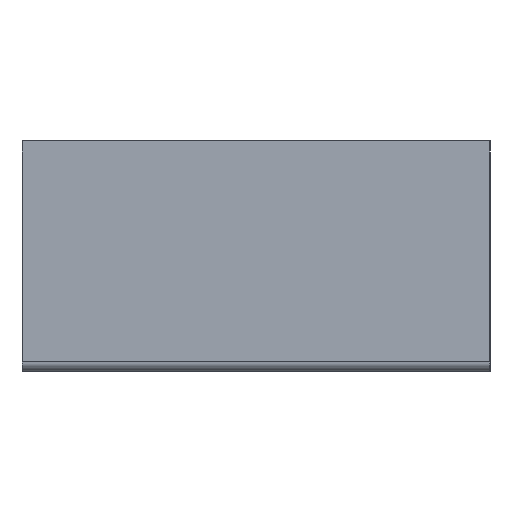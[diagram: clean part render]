
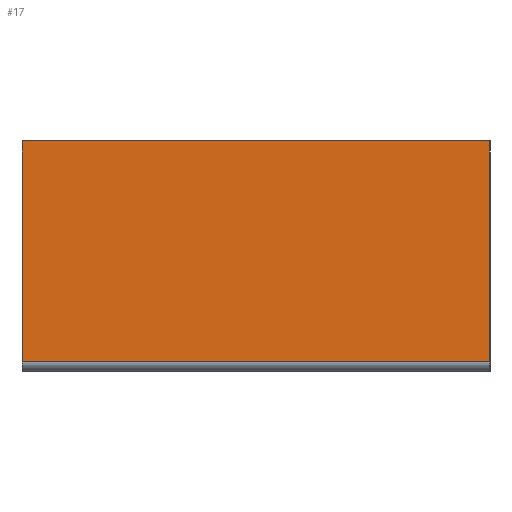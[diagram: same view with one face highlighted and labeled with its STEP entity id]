
A CAD part, left-side view. The second image highlights one B-rep face of the part: STEP entity #17.
In plain terms, the highlighted planar face has unit normal (-1, 0, 0).
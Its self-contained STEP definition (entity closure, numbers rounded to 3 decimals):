
#17 = ADVANCED_FACE('',(#18),#32,.F.);
#18 = FACE_BOUND('',#19,.F.);
#19 = EDGE_LOOP('',(#20,#55,#83,#111));
#20 = ORIENTED_EDGE('',*,*,#21,.T.);
#21 = EDGE_CURVE('',#22,#24,#26,.T.);
#22 = VERTEX_POINT('',#23);
#23 = CARTESIAN_POINT('',(-110.,90.,88.5));
#24 = VERTEX_POINT('',#25);
#25 = CARTESIAN_POINT('',(-110.,-90.,88.5));
#26 = SURFACE_CURVE('',#27,(#31,#43),.PCURVE_S1.);
#27 = LINE('',#28,#29);
#28 = CARTESIAN_POINT('',(-110.,90.,88.5));
#29 = VECTOR('',#30,1.);
#30 = DIRECTION('',(0.,-1.,0.));
#31 = PCURVE('',#32,#37);
#32 = PLANE('',#33);
#33 = AXIS2_PLACEMENT_3D('',#34,#35,#36);
#34 = CARTESIAN_POINT('',(-110.,90.,88.5));
#35 = DIRECTION('',(1.,0.,0.));
#36 = DIRECTION('',(0.,0.,-1.));
#37 = DEFINITIONAL_REPRESENTATION('',(#38),#42);
#38 = LINE('',#39,#40);
#39 = CARTESIAN_POINT('',(0.,0.));
#40 = VECTOR('',#41,1.);
#41 = DIRECTION('',(0.,-1.));
#42 = ( GEOMETRIC_REPRESENTATION_CONTEXT(2) 
PARAMETRIC_REPRESENTATION_CONTEXT() REPRESENTATION_CONTEXT('2D SPACE',''
  ) );
#43 = PCURVE('',#44,#49);
#44 = PLANE('',#45);
#45 = AXIS2_PLACEMENT_3D('',#46,#47,#48);
#46 = CARTESIAN_POINT('',(-108.5,90.,88.5));
#47 = DIRECTION('',(-0.,-0.,-1.));
#48 = DIRECTION('',(-1.,0.,0.));
#49 = DEFINITIONAL_REPRESENTATION('',(#50),#54);
#50 = LINE('',#51,#52);
#51 = CARTESIAN_POINT('',(1.5,0.));
#52 = VECTOR('',#53,1.);
#53 = DIRECTION('',(0.,-1.));
#54 = ( GEOMETRIC_REPRESENTATION_CONTEXT(2) 
PARAMETRIC_REPRESENTATION_CONTEXT() REPRESENTATION_CONTEXT('2D SPACE',''
  ) );
#55 = ORIENTED_EDGE('',*,*,#56,.T.);
#56 = EDGE_CURVE('',#24,#57,#59,.T.);
#57 = VERTEX_POINT('',#58);
#58 = CARTESIAN_POINT('',(-110.,-90.,3.5));
#59 = SURFACE_CURVE('',#60,(#64,#71),.PCURVE_S1.);
#60 = LINE('',#61,#62);
#61 = CARTESIAN_POINT('',(-110.,-90.,88.5));
#62 = VECTOR('',#63,1.);
#63 = DIRECTION('',(0.,0.,-1.));
#64 = PCURVE('',#32,#65);
#65 = DEFINITIONAL_REPRESENTATION('',(#66),#70);
#66 = LINE('',#67,#68);
#67 = CARTESIAN_POINT('',(0.,-180.));
#68 = VECTOR('',#69,1.);
#69 = DIRECTION('',(1.,0.));
#70 = ( GEOMETRIC_REPRESENTATION_CONTEXT(2) 
PARAMETRIC_REPRESENTATION_CONTEXT() REPRESENTATION_CONTEXT('2D SPACE',''
  ) );
#71 = PCURVE('',#72,#77);
#72 = PLANE('',#73);
#73 = AXIS2_PLACEMENT_3D('',#74,#75,#76);
#74 = CARTESIAN_POINT('',(0.,-90.,20.676));
#75 = DIRECTION('',(-0.,-1.,-0.));
#76 = DIRECTION('',(0.,0.,-1.));
#77 = DEFINITIONAL_REPRESENTATION('',(#78),#82);
#78 = LINE('',#79,#80);
#79 = CARTESIAN_POINT('',(-67.824,-110.));
#80 = VECTOR('',#81,1.);
#81 = DIRECTION('',(1.,0.));
#82 = ( GEOMETRIC_REPRESENTATION_CONTEXT(2) 
PARAMETRIC_REPRESENTATION_CONTEXT() REPRESENTATION_CONTEXT('2D SPACE',''
  ) );
#83 = ORIENTED_EDGE('',*,*,#84,.F.);
#84 = EDGE_CURVE('',#85,#57,#87,.T.);
#85 = VERTEX_POINT('',#86);
#86 = CARTESIAN_POINT('',(-110.,90.,3.5));
#87 = SURFACE_CURVE('',#88,(#92,#99),.PCURVE_S1.);
#88 = LINE('',#89,#90);
#89 = CARTESIAN_POINT('',(-110.,90.,3.5));
#90 = VECTOR('',#91,1.);
#91 = DIRECTION('',(0.,-1.,0.));
#92 = PCURVE('',#32,#93);
#93 = DEFINITIONAL_REPRESENTATION('',(#94),#98);
#94 = LINE('',#95,#96);
#95 = CARTESIAN_POINT('',(85.,0.));
#96 = VECTOR('',#97,1.);
#97 = DIRECTION('',(0.,-1.));
#98 = ( GEOMETRIC_REPRESENTATION_CONTEXT(2) 
PARAMETRIC_REPRESENTATION_CONTEXT() REPRESENTATION_CONTEXT('2D SPACE',''
  ) );
#99 = PCURVE('',#100,#105);
#100 = CYLINDRICAL_SURFACE('',#101,3.5);
#101 = AXIS2_PLACEMENT_3D('',#102,#103,#104);
#102 = CARTESIAN_POINT('',(-106.5,90.,3.5));
#103 = DIRECTION('',(-0.,1.,-0.));
#104 = DIRECTION('',(-1.,0.,0.));
#105 = DEFINITIONAL_REPRESENTATION('',(#106),#110);
#106 = LINE('',#107,#108);
#107 = CARTESIAN_POINT('',(-0.,0.));
#108 = VECTOR('',#109,1.);
#109 = DIRECTION('',(-0.,-1.));
#110 = ( GEOMETRIC_REPRESENTATION_CONTEXT(2) 
PARAMETRIC_REPRESENTATION_CONTEXT() REPRESENTATION_CONTEXT('2D SPACE',''
  ) );
#111 = ORIENTED_EDGE('',*,*,#112,.F.);
#112 = EDGE_CURVE('',#22,#85,#113,.T.);
#113 = SURFACE_CURVE('',#114,(#118,#125),.PCURVE_S1.);
#114 = LINE('',#115,#116);
#115 = CARTESIAN_POINT('',(-110.,90.,88.5));
#116 = VECTOR('',#117,1.);
#117 = DIRECTION('',(0.,0.,-1.));
#118 = PCURVE('',#32,#119);
#119 = DEFINITIONAL_REPRESENTATION('',(#120),#124);
#120 = LINE('',#121,#122);
#121 = CARTESIAN_POINT('',(0.,0.));
#122 = VECTOR('',#123,1.);
#123 = DIRECTION('',(1.,0.));
#124 = ( GEOMETRIC_REPRESENTATION_CONTEXT(2) 
PARAMETRIC_REPRESENTATION_CONTEXT() REPRESENTATION_CONTEXT('2D SPACE',''
  ) );
#125 = PCURVE('',#126,#131);
#126 = PLANE('',#127);
#127 = AXIS2_PLACEMENT_3D('',#128,#129,#130);
#128 = CARTESIAN_POINT('',(0.,90.,20.676));
#129 = DIRECTION('',(-0.,-1.,-0.));
#130 = DIRECTION('',(0.,0.,-1.));
#131 = DEFINITIONAL_REPRESENTATION('',(#132),#136);
#132 = LINE('',#133,#134);
#133 = CARTESIAN_POINT('',(-67.824,-110.));
#134 = VECTOR('',#135,1.);
#135 = DIRECTION('',(1.,0.));
#136 = ( GEOMETRIC_REPRESENTATION_CONTEXT(2) 
PARAMETRIC_REPRESENTATION_CONTEXT() REPRESENTATION_CONTEXT('2D SPACE',''
  ) );
